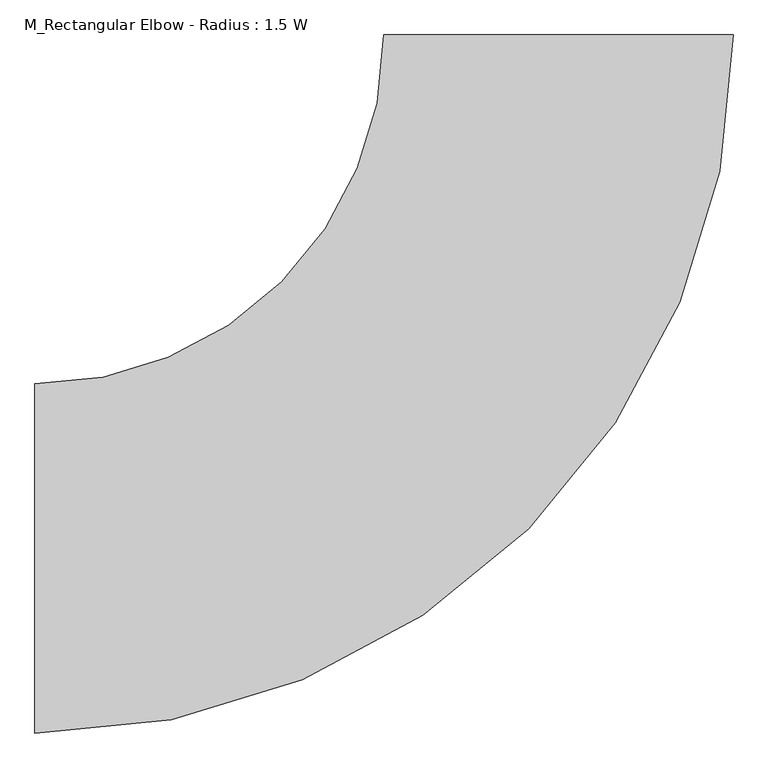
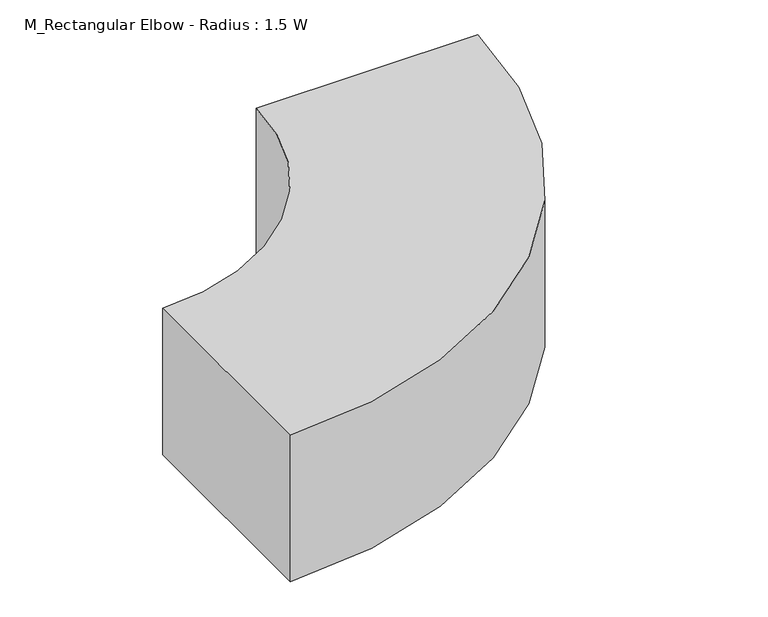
"""IFC4 building model written with IfcOpenShell, lengths in millimetres: duct fitting geometry, M_Rectangular Elbow - Radius : 1.5 W."""

from ifc_helpers import new_model, si_unit, point, frame, frame_2d, origin, place, context, project, spatial, polyline, circle_curve, trimmed, segment, composite_curve, outline, extrude, source, transform, mapped, element, save


def m_rectangular_elbow_radius_1_5_w_e27a27d6(model_context):
    return source(origin(), model_context, "Body", "SweptSolid", [
        extrude(outline(composite_curve([segment(trimmed(circle_curve(frame_2d((-750.0, 750.0)), 1000.0), [point((250.0, 750.0))], [point((-750.0, -250.0))], False, "CARTESIAN"), True, "CONTINUOUS"), segment(polyline([(-750.0, -250.0), (-750.0, 250.0)]), True, "CONTINUOUS"), segment(trimmed(circle_curve(frame_2d((-750.0, 750.0)), 500.0), [point((-750.0, 250.0))], [point((-250.0, 750.0))], True, "CARTESIAN"), True, "CONTINUOUS"), segment(polyline([(-250.0, 750.0), (250.0, 750.0)]), True, "CONTINUOUS")], self_intersect=False)), frame((0.0, 0.0, -175.0), z_axis=(0.0, 0.0, 1.0), x_axis=(1.0, 0.0, 0.0)), (0.0, 0.0, 1.0), 350.0),
    ])


if __name__ == "__main__":
    model = new_model("IFC4")
    model_context = context("Model", 3, world=origin())
    ifc_project = project(units=[si_unit("LENGTHUNIT", "METRE", prefix="MILLI")], contexts=[model_context])
    site = spatial("IfcSite", under=ifc_project)
    building = spatial("IfcBuilding", under=site)
    placement = place(None, origin())
    m_rectangular_elbow_radius_1_5_w_shape = m_rectangular_elbow_radius_1_5_w_e27a27d6(model_context)
    element("IfcDuctFitting", 1, ObjectType="M_Rectangular Elbow - Radius : 1.5 W", at=placement, inside=building, context=model_context, shape_type="MappedRepresentation", body=[
        mapped(m_rectangular_elbow_radius_1_5_w_shape, transform((0.0, 0.0, 0.0), x_axis=(1.0, 0.0, 0.0), y_axis=(0.0, 1.0, 0.0), z_axis=(0.0, 0.0, 1.0))),
    ])
    save(model, "model.ifc")
